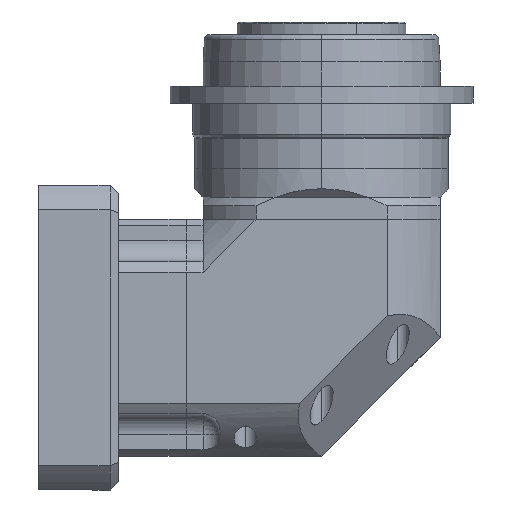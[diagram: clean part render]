
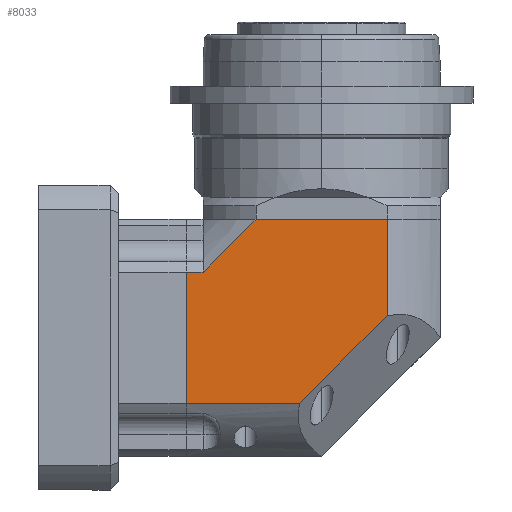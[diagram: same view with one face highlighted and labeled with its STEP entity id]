
A CAD part, left-side view. The second image highlights one B-rep face of the part: STEP entity #8033.
In plain terms, the highlighted planar face has unit normal (-1, 0, 0).
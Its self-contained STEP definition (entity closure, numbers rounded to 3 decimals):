
#266 = CARTESIAN_POINT ( 'NONE',  ( -70., 80., -58.52 ) ) ;
#1029 = FACE_OUTER_BOUND ( 'NONE', #13976, .T. ) ;
#1986 = CARTESIAN_POINT ( 'NONE',  ( -70., 70., -58.52 ) ) ;
#2510 = B_SPLINE_CURVE_WITH_KNOTS ( 'NONE', 5,
 ( #13024, #11722, #14499, #5642, #10189, #9992 ),
 .UNSPECIFIED., .F., .F.,
 ( 6, 6 ),
 ( 0., 1. ),
 .UNSPECIFIED. ) ;
#2552 = DIRECTION ( 'NONE',  ( 0., 0., 1. ) ) ;
#2556 = VECTOR ( 'NONE', #2552, 1000. ) ;
#2636 = DIRECTION ( 'NONE',  ( 0., 0., 1. ) ) ;
#2712 = AXIS2_PLACEMENT_3D ( 'NONE', #4464, #7873, #9450 ) ;
#2884 = EDGE_CURVE ( 'NONE', #14282, #8264, #4463, .T. ) ;
#3662 = EDGE_CURVE ( 'NONE', #8187, #9790, #9896, .T. ) ;
#4188 = ORIENTED_EDGE ( 'NONE', *, *, #15720, .F. ) ;
#4463 = LINE ( 'NONE', #16109, #2556 ) ;
#4464 = CARTESIAN_POINT ( 'NONE',  ( -70., -70., -167.25 ) ) ;
#4546 = DIRECTION ( 'NONE',  ( 0., -1., 0. ) ) ;
#4905 = EDGE_CURVE ( 'NONE', #16014, #16189, #2510, .T. ) ;
#5642 = CARTESIAN_POINT ( 'NONE',  ( -70., 51.238, -39.758 ) ) ;
#6115 = VECTOR ( 'NONE', #14418, 1000. ) ;
#6714 = VECTOR ( 'NONE', #4546, 1000. ) ;
#6776 = VECTOR ( 'NONE', #2636, 1000. ) ;
#7140 = ORIENTED_EDGE ( 'NONE', *, *, #13903, .F. ) ;
#7265 = ORIENTED_EDGE ( 'NONE', *, *, #2884, .F. ) ;
#7450 = CARTESIAN_POINT ( 'NONE',  ( -70., -38.73, -27.25 ) ) ;
#7873 = DIRECTION ( 'NONE',  ( 1., 0., 0. ) ) ;
#7927 = EDGE_CURVE ( 'NONE', #16189, #9790, #16819, .T. ) ;
#8033 = ADVANCED_FACE ( 'NONE', ( #1029 ), #16290, .F. ) ;
#8187 = VERTEX_POINT ( 'NONE', #18477 ) ;
#8264 = VERTEX_POINT ( 'NONE', #266 ) ;
#9368 = CARTESIAN_POINT ( 'NONE',  ( -70., 80., -135.98 ) ) ;
#9450 = DIRECTION ( 'NONE',  ( 0., 0., -1. ) ) ;
#9671 = ORIENTED_EDGE ( 'NONE', *, *, #7927, .F. ) ;
#9790 = VERTEX_POINT ( 'NONE', #7450 ) ;
#9896 = LINE ( 'NONE', #18002, #6776 ) ;
#9992 = CARTESIAN_POINT ( 'NONE',  ( -70., 38.73, -27.25 ) ) ;
#10147 = CARTESIAN_POINT ( 'NONE',  ( -70., -16.619, -106.409 ) ) ;
#10189 = CARTESIAN_POINT ( 'NONE',  ( -70., 44.984, -33.504 ) ) ;
#10743 = ORIENTED_EDGE ( 'NONE', *, *, #3662, .T. ) ;
#11029 = LINE ( 'NONE', #15421, #6714 ) ;
#11181 = VECTOR ( 'NONE', #14719, 1000. ) ;
#11613 = LINE ( 'NONE', #14348, #6115 ) ;
#11722 = CARTESIAN_POINT ( 'NONE',  ( -70., 63.746, -52.266 ) ) ;
#12146 = LINE ( 'NONE', #10147, #11181 ) ;
#13024 = CARTESIAN_POINT ( 'NONE',  ( -70., 70., -58.52 ) ) ;
#13903 = EDGE_CURVE ( 'NONE', #17368, #14282, #11613, .T. ) ;
#13976 = EDGE_LOOP ( 'NONE', ( #9671, #19645, #4188, #7265, #7140, #17372, #10743 ) ) ;
#14282 = VERTEX_POINT ( 'NONE', #9368 ) ;
#14348 = CARTESIAN_POINT ( 'NONE',  ( -70., -70., -135.98 ) ) ;
#14378 = VECTOR ( 'NONE', #16098, 1000. ) ;
#14418 = DIRECTION ( 'NONE',  ( 0., 1., 0. ) ) ;
#14436 = CARTESIAN_POINT ( 'NONE',  ( -70., 38.73, -27.25 ) ) ;
#14485 = CARTESIAN_POINT ( 'NONE',  ( -70., -70., -27.25 ) ) ;
#14499 = CARTESIAN_POINT ( 'NONE',  ( -70., 57.492, -46.012 ) ) ;
#14719 = DIRECTION ( 'NONE',  ( 0., -0.707, 0.707 ) ) ;
#15421 = CARTESIAN_POINT ( 'NONE',  ( -70., 80., -58.52 ) ) ;
#15720 = EDGE_CURVE ( 'NONE', #8264, #16014, #11029, .T. ) ;
#16014 = VERTEX_POINT ( 'NONE', #1986 ) ;
#16098 = DIRECTION ( 'NONE',  ( 0., -1., 0. ) ) ;
#16109 = CARTESIAN_POINT ( 'NONE',  ( -70., 80., -135.98 ) ) ;
#16189 = VERTEX_POINT ( 'NONE', #14436 ) ;
#16290 = PLANE ( 'NONE',  #2712 ) ;
#16819 = LINE ( 'NONE', #14485, #14378 ) ;
#17368 = VERTEX_POINT ( 'NONE', #19176 ) ;
#17372 = ORIENTED_EDGE ( 'NONE', *, *, #19723, .T. ) ;
#18002 = CARTESIAN_POINT ( 'NONE',  ( -70., -38.73, -167.25 ) ) ;
#18477 = CARTESIAN_POINT ( 'NONE',  ( -70., -38.73, -84.298 ) ) ;
#19176 = CARTESIAN_POINT ( 'NONE',  ( -70., 12.952, -135.98 ) ) ;
#19645 = ORIENTED_EDGE ( 'NONE', *, *, #4905, .F. ) ;
#19723 = EDGE_CURVE ( 'NONE', #17368, #8187, #12146, .T. ) ;
